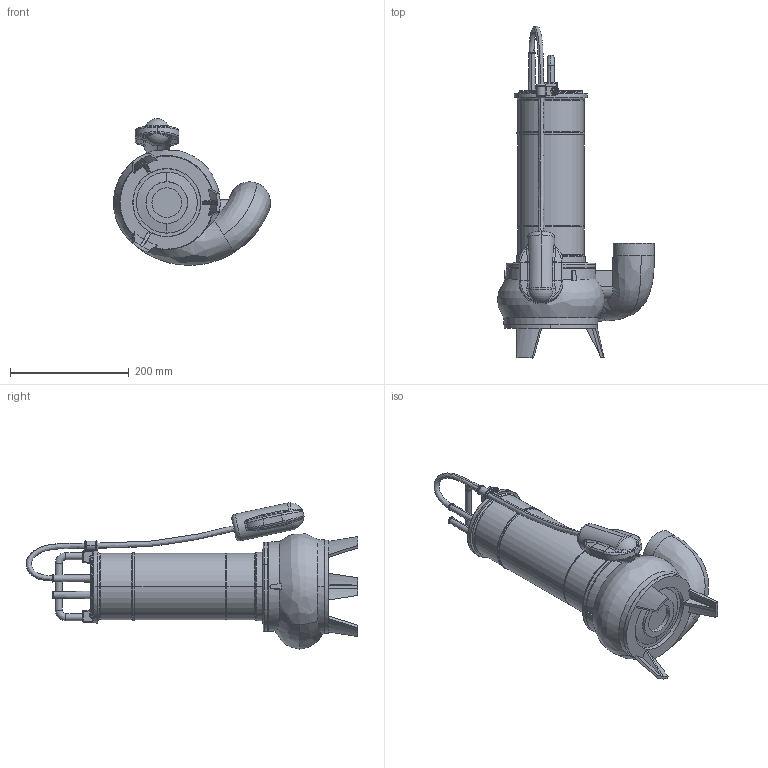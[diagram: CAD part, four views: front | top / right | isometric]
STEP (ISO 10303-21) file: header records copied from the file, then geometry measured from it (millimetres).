
FILE_DESCRIPTION (( 'STEP AP203' ), '1' );
FILE_NAME ('50FWX_09-11_threaded_G.STEP', '2026-06-12T08:35:30', ( '' ), ( '' ), 'SwSTEP 2.0', 'SolidWorks 2024', '' );
FILE_SCHEMA (( 'CONFIG_CONTROL_DESIGN' ));
Length unit declared in the file: millimetre
Products named in the file (1): 50FWX_09-11_threaded_G
Bounding box: 265 x 559.86 x 247.17 mm (x, y, z)
Volume: 6296570.7 mm3; surface area: 325398.9 mm2
Topology: 1 solids, 6 shells, 580 faces, 1383 edges, 835 vertices
Faces by surface type: plane 176, bspline 151, cylinder 103, torus 67, cone 66, sphere 17
Entity records: 24757 total; most frequent: CARTESIAN_POINT 12273, ORIENTED_EDGE 2738, DIRECTION 2372, EDGE_CURVE 1369, AXIS2_PLACEMENT_3D 950, VERTEX_POINT 835, EDGE_LOOP 626, ADVANCED_FACE 580
